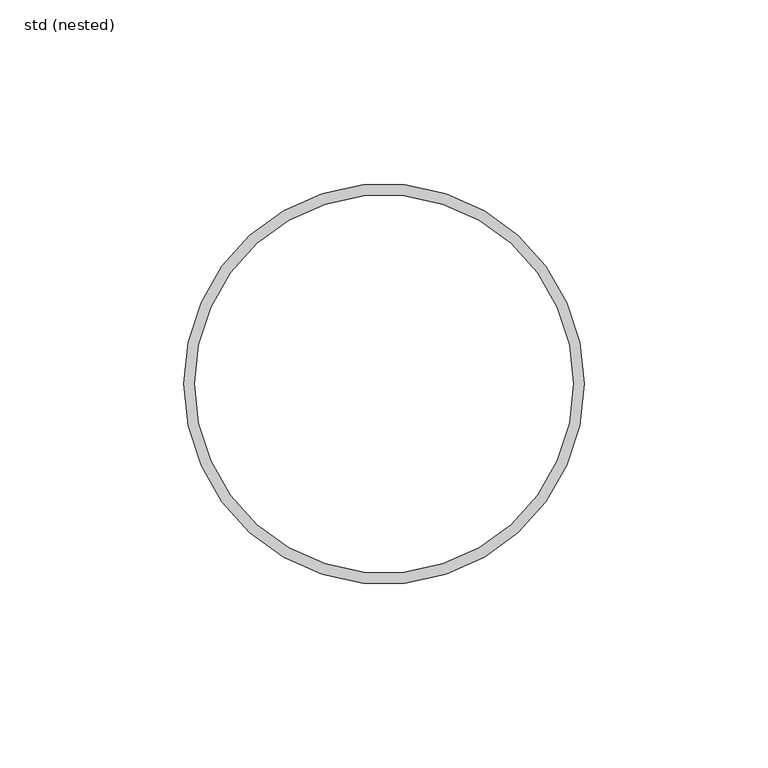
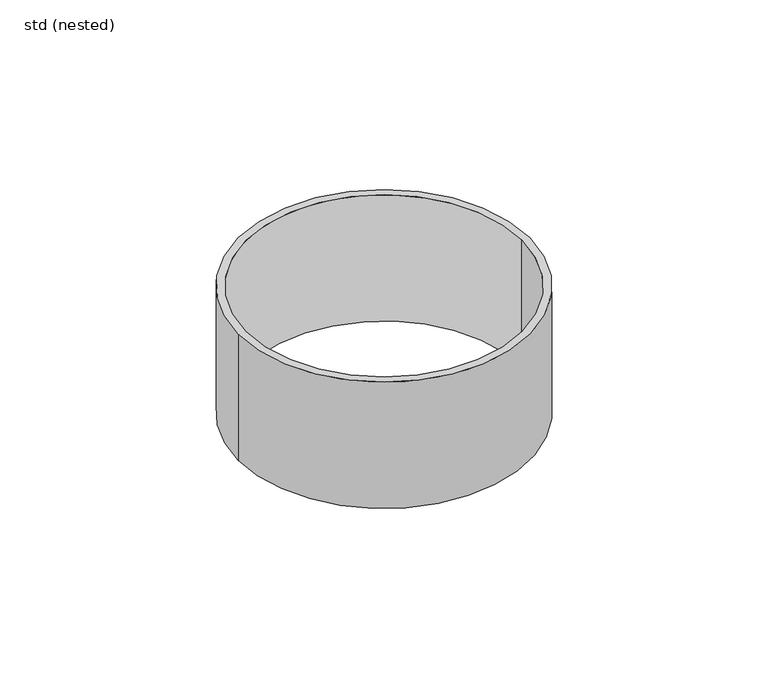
"""IFC4 building model written with IfcOpenShell, lengths in millimetres: pipe fitting geometry, ZZZ_do not use_PIF_ST_WPB_GM-X compound pipe clamp_ACO : std (nested)."""

from ifc_helpers import new_model, si_unit, point, frame, origin, origin_2d, place, context, project, spatial, circle_curve, trimmed, segment, composite_curve, outline, extrude, source, transform, mapped, element, save


def std_nested_8648658f(model_context):
    return source(origin(), model_context, "Body", "SweptSolid", [
        extrude(outline(composite_curve([segment(trimmed(circle_curve(origin_2d(), 54.5), [point((54.5, 0.0))], [point((-54.5, 0.0))], False, "CARTESIAN"), True, "CONTINUOUS"), segment(trimmed(circle_curve(origin_2d(), 54.5), [point((-54.5, 0.0))], [point((54.5, 0.0))], False, "CARTESIAN"), True, "CONTINUOUS")], self_intersect=False), holes=[composite_curve([segment(trimmed(circle_curve(origin_2d(), 51.5), [point((51.5, 0.0))], [point((-51.5, 0.0))], True, "CARTESIAN"), True, "CONTINUOUS"), segment(trimmed(circle_curve(origin_2d(), 51.5), [point((-51.5, 0.0))], [point((51.5, 0.0))], True, "CARTESIAN"), True, "CONTINUOUS")], self_intersect=False)]), frame((0.0, 0.0, -67.5), z_axis=(0.0, 0.0, 1.0), x_axis=(1.0, 0.0, 0.0)), (0.0, 0.0, 1.0), 50.0),
    ])


if __name__ == "__main__":
    model = new_model("IFC4")
    model_context = context("Model", 3, world=origin())
    ifc_project = project(units=[si_unit("LENGTHUNIT", "METRE", prefix="MILLI")], contexts=[model_context])
    site = spatial("IfcSite", under=ifc_project)
    building = spatial("IfcBuilding", under=site)
    placement = place(None, origin())
    std_nested_shape = std_nested_8648658f(model_context)
    element("IfcPipeFitting", 1, ObjectType="ZZZ_do not use_PIF_ST_WPB_GM-X compound pipe clamp_ACO : std (nested)", at=placement, inside=building, context=model_context, shape_type="MappedRepresentation", body=[
        mapped(std_nested_shape, transform((0.0, 0.0, 0.0), x_axis=(1.0, 0.0, 0.0), y_axis=(0.0, 1.0, 0.0), z_axis=(0.0, 0.0, 1.0))),
    ])
    save(model, "model.ifc")
